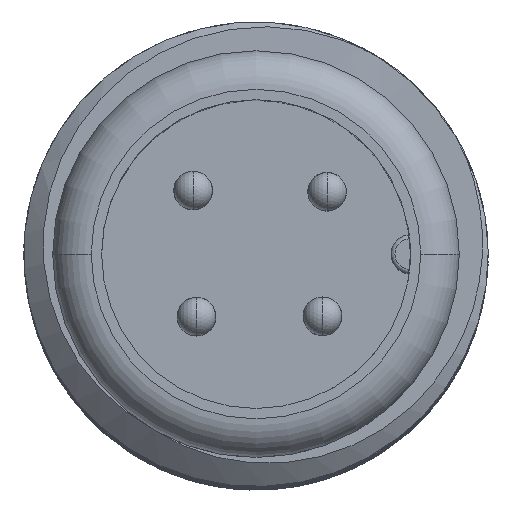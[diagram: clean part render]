
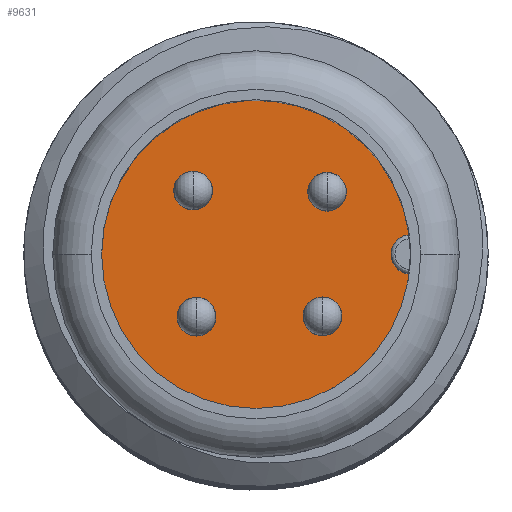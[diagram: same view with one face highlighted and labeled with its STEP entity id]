
A CAD part, top view. The second image highlights one B-rep face of the part: STEP entity #9631.
In plain terms, the highlighted planar face has unit normal (0, 0, 1).
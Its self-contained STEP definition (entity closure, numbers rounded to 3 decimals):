
#94 = ORIENTED_EDGE ( 'NONE', *, *, #7809, .T. ) ;
#404 = PLANE ( 'NONE',  #1058 ) ;
#552 = CARTESIAN_POINT ( 'NONE',  ( 3.5, 0., 6. ) ) ;
#1058 = AXIS2_PLACEMENT_3D ( 'NONE', #6284, #12190, #12436 ) ;
#1540 = DIRECTION ( 'NONE',  ( 1., 0., 0. ) ) ;
#2348 = EDGE_LOOP ( 'NONE', ( #94, #7390, #4671, #4771 ) ) ;
#2559 = VERTEX_POINT ( 'NONE', #552 ) ;
#3240 = AXIS2_PLACEMENT_3D ( 'NONE', #6544, #10254, #4347 ) ;
#3321 = EDGE_CURVE ( 'NONE', #2559, #8374, #5098, .T. ) ;
#4072 = AXIS2_PLACEMENT_3D ( 'NONE', #8338, #7353, #1540 ) ;
#4347 = DIRECTION ( 'NONE',  ( 1., 0., 0. ) ) ;
#4457 = CARTESIAN_POINT ( 'NONE',  ( 4., 0., 6. ) ) ;
#4671 = ORIENTED_EDGE ( 'NONE', *, *, #11776, .T. ) ;
#4771 = ORIENTED_EDGE ( 'NONE', *, *, #3321, .T. ) ;
#5098 = CIRCLE ( 'NONE', #11314, 0.5 ) ;
#5191 = AXIS2_PLACEMENT_3D ( 'NONE', #7309, #10307, #10437 ) ;
#5297 = CARTESIAN_POINT ( 'NONE',  ( 3.969, 0.499, 6. ) ) ;
#6284 = CARTESIAN_POINT ( 'NONE',  ( 0., 0., 6. ) ) ;
#6544 = CARTESIAN_POINT ( 'NONE',  ( 0., 0., 6. ) ) ;
#7309 = CARTESIAN_POINT ( 'NONE',  ( 0., 0., 6. ) ) ;
#7353 = DIRECTION ( 'NONE',  ( 0., 0., -1. ) ) ;
#7390 = ORIENTED_EDGE ( 'NONE', *, *, #9542, .T. ) ;
#7467 = CARTESIAN_POINT ( 'NONE',  ( 3.969, -0.499, 6. ) ) ;
#7809 = EDGE_CURVE ( 'NONE', #8374, #10007, #9432, .T. ) ;
#8338 = CARTESIAN_POINT ( 'NONE',  ( 4., 0., 6. ) ) ;
#8374 = VERTEX_POINT ( 'NONE', #5297 ) ;
#8762 = VERTEX_POINT ( 'NONE', #7467 ) ;
#9432 = CIRCLE ( 'NONE', #3240, 4. ) ;
#9542 = EDGE_CURVE ( 'NONE', #10007, #8762, #12440, .T. ) ;
#9631 = ADVANCED_FACE ( 'NONE', ( #12249 ), #404, .T. ) ;
#9963 = CARTESIAN_POINT ( 'NONE',  ( -4., 0., 6. ) ) ;
#10007 = VERTEX_POINT ( 'NONE', #9963 ) ;
#10254 = DIRECTION ( 'NONE',  ( 0., 0., 1. ) ) ;
#10307 = DIRECTION ( 'NONE',  ( 0., 0., 1. ) ) ;
#10437 = DIRECTION ( 'NONE',  ( 1., 0., 0. ) ) ;
#10718 = CIRCLE ( 'NONE', #4072, 0.5 ) ;
#11314 = AXIS2_PLACEMENT_3D ( 'NONE', #4457, #11468, #12561 ) ;
#11468 = DIRECTION ( 'NONE',  ( 0., 0., -1. ) ) ;
#11776 = EDGE_CURVE ( 'NONE', #8762, #2559, #10718, .T. ) ;
#12190 = DIRECTION ( 'NONE',  ( 0., 0., 1. ) ) ;
#12249 = FACE_OUTER_BOUND ( 'NONE', #2348, .T. ) ;
#12436 = DIRECTION ( 'NONE',  ( 1., 0., 0. ) ) ;
#12440 = CIRCLE ( 'NONE', #5191, 4. ) ;
#12561 = DIRECTION ( 'NONE',  ( 1., 0., 0. ) ) ;
